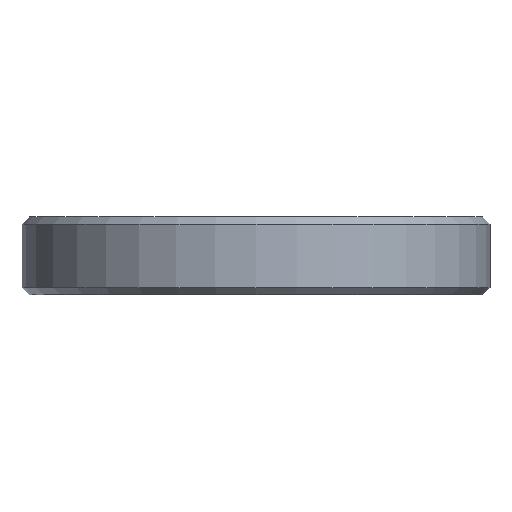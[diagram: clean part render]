
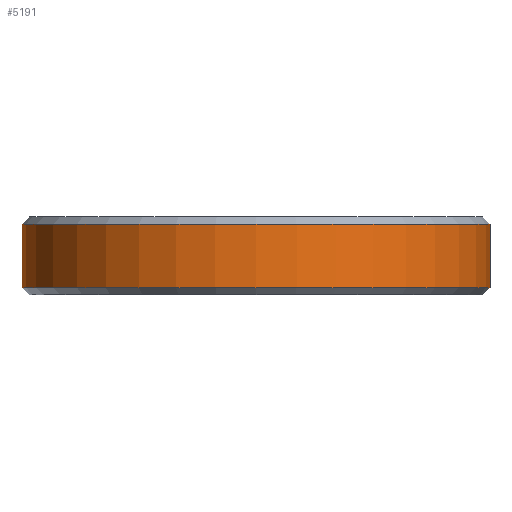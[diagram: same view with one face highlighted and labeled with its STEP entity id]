
A CAD part, front view. The second image highlights one B-rep face of the part: STEP entity #5191.
In plain terms, the highlighted cylindrical face has radius 9.375 mm (diameter 18.75 mm), a full revolution.
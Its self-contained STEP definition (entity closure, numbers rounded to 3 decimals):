
#23=CYLINDRICAL_SURFACE('',#5470,9.375);
#40=CIRCLE('',#5465,9.375);
#44=CIRCLE('',#5471,9.375);
#304=FACE_OUTER_BOUND('',#566,.T.);
#566=EDGE_LOOP('',(#4400,#4401,#4402,#4403));
#1293=LINE('',#8175,#2004);
#2004=VECTOR('',#6698,9.375);
#2480=VERTEX_POINT('',#8158);
#2486=VERTEX_POINT('',#8173);
#3196=EDGE_CURVE('',#2480,#2480,#40,.T.);
#3203=EDGE_CURVE('',#2486,#2486,#44,.T.);
#3204=EDGE_CURVE('',#2486,#2480,#1293,.T.);
#4400=ORIENTED_EDGE('',*,*,#3203,.F.);
#4401=ORIENTED_EDGE('',*,*,#3204,.T.);
#4402=ORIENTED_EDGE('',*,*,#3196,.F.);
#4403=ORIENTED_EDGE('',*,*,#3204,.F.);
#5191=ADVANCED_FACE('',(#304),#23,.T.);
#5465=AXIS2_PLACEMENT_3D('',#8159,#6681,#6682);
#5470=AXIS2_PLACEMENT_3D('',#8172,#6694,#6695);
#5471=AXIS2_PLACEMENT_3D('',#8174,#6696,#6697);
#6681=DIRECTION('center_axis',(0.,0.,-1.));
#6682=DIRECTION('ref_axis',(1.,0.,0.));
#6694=DIRECTION('center_axis',(0.,0.,1.));
#6695=DIRECTION('ref_axis',(1.,0.,0.));
#6696=DIRECTION('center_axis',(0.,0.,1.));
#6697=DIRECTION('ref_axis',(1.,0.,0.));
#6698=DIRECTION('',(0.,0.,-1.));
#8158=CARTESIAN_POINT('',(-9.375,0.,0.3));
#8159=CARTESIAN_POINT('Origin',(0.,0.,0.3));
#8172=CARTESIAN_POINT('Origin',(0.,0.,0.));
#8173=CARTESIAN_POINT('',(-9.375,0.,2.825));
#8174=CARTESIAN_POINT('Origin',(0.,0.,2.825));
#8175=CARTESIAN_POINT('',(-9.375,0.,0.));
